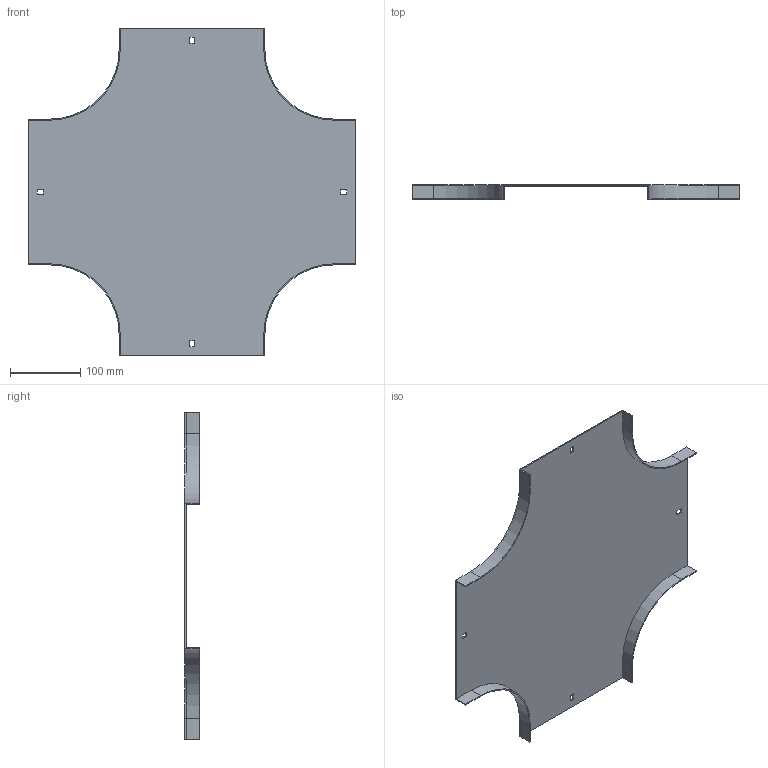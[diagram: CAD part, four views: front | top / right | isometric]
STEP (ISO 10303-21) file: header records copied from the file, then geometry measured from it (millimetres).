
FILE_DESCRIPTION (( 'STEP AP214' ), '1' );
FILE_NAME ('17G1R200.step', '2025-02-21T13:03:15', ( '' ), ( '' ), 'SwSTEP 2.0', 'SolidWorks 2023', '' );
FILE_SCHEMA (( 'AUTOMOTIVE_DESIGN' ));
Length unit declared in the file: millimetre
Products named in the file (1): 17G1R200
Bounding box: 464 x 20 x 464 mm (x, y, z)
Volume: 259977.3 mm3; surface area: 349574.7 mm2
Topology: 1 solids, 1 shells, 50 faces, 144 edges, 96 vertices
Faces by surface type: plane 42, cylinder 8
Entity records: 1663 total; most frequent: CARTESIAN_POINT 291, ORIENTED_EDGE 288, DIRECTION 262, EDGE_CURVE 144, LINE 128, VECTOR 128, VERTEX_POINT 96, AXIS2_PLACEMENT_3D 67
